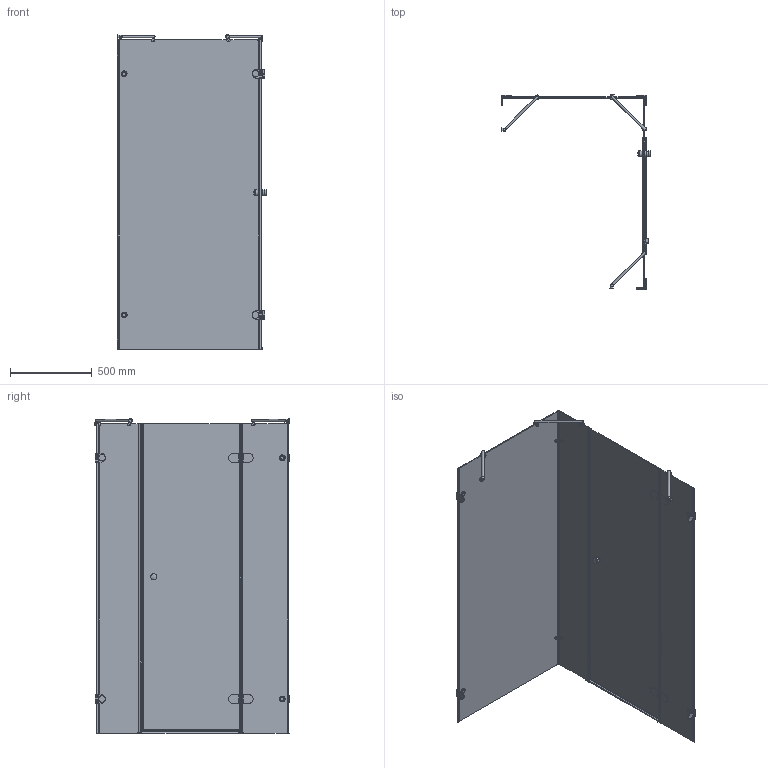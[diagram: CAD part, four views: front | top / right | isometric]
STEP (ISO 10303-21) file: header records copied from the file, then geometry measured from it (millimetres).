
FILE_DESCRIPTION(/* description */ (''),/* implementation_level */ '2;1');
FILE_NAME(/* name */ 'E:\Работа\Сергей\Душевые кабинки\! Работа\++++++++++\LUX RECTAN GK-004B1\LUX RECTAN GK-004B1 левая модель\LUX RECTAN GK-004B1 ЛЕВАЯ-3D.stp',/* time_stamp */ '2018-02-03T16:24:10+03:00',/* author */ ('PC'),/* organization */ (''),/* preprocessor_version */ 'ST-DEVELOPER v15.2',/* originating_system */ 'Autodesk Inventor 2014',/* authorisation */ '');
FILE_SCHEMA (('AUTOMOTIVE_DESIGN { 1 0 10303 214 3 1 1 }'));
Length unit declared in the file: millimetre
Products named in the file (1): LUX RECTAN GK-004B1 ЛЕВАЯ-3D
Bounding box: 917.98 x 1193.98 x 1931.5 mm (x, y, z)
Volume: 24546821.1 mm3; surface area: 8339167.7 mm2
Topology: 5 solids, 5 shells, 774 faces, 1963 edges, 1243 vertices
Faces by surface type: plane 522, cylinder 192, torus 22, sphere 16, bspline 14, cone 8
Full cylindrical faces by diameter (mm): 8 x4, 11 x4, 12 x4, 15 x3, 18 x4, 20 x6, 26 x2, 30 x4, 35 x4, 38 x4, 40 x4
Entity records: 24003 total; most frequent: CARTESIAN_POINT 4911, DIRECTION 3781, ORIENTED_EDGE 3688, EDGE_CURVE 1844, LINE 1287, VECTOR 1287, AXIS2_PLACEMENT_3D 1247, VERTEX_POINT 1199
